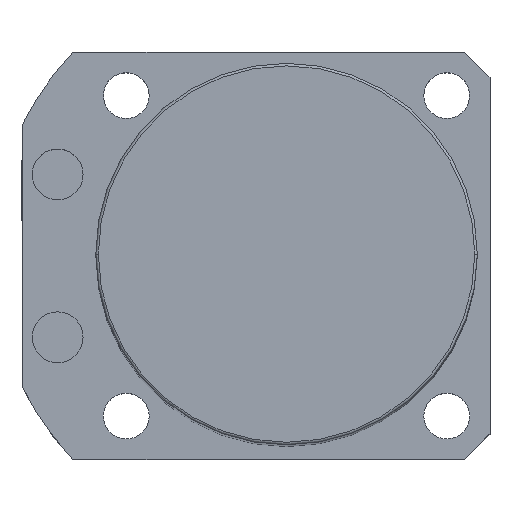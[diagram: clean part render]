
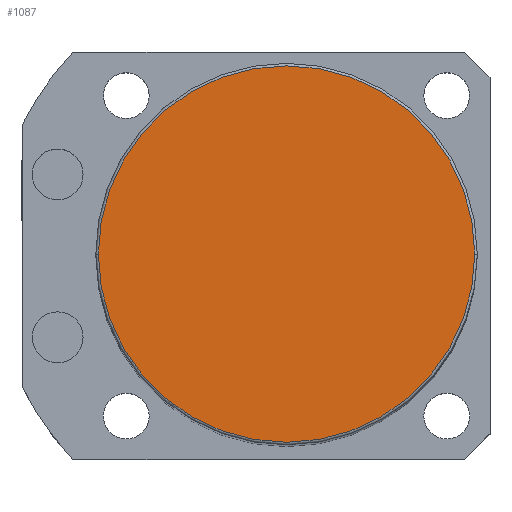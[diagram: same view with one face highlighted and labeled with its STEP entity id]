
A CAD part, top view. The second image highlights one B-rep face of the part: STEP entity #1087.
In plain terms, the highlighted planar face has unit normal (0, 0, 1).
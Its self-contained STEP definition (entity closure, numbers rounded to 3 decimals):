
#41 = EDGE_LOOP ( 'NONE', ( #1709, #2455 ) ) ;
#73 = AXIS2_PLACEMENT_3D ( 'NONE', #1378, #247, #1572 ) ;
#146 = CARTESIAN_POINT ( 'NONE',  ( 0., 0., 220.5 ) ) ;
#174 = VERTEX_POINT ( 'NONE', #1507 ) ;
#198 = AXIS2_PLACEMENT_3D ( 'NONE', #146, #1467, #1983 ) ;
#247 = DIRECTION ( 'NONE',  ( 0., 0., 1. ) ) ;
#462 = EDGE_CURVE ( 'NONE', #2234, #174, #1784, .T. ) ;
#546 = CIRCLE ( 'NONE', #1468, 37. ) ;
#796 = EDGE_CURVE ( 'NONE', #174, #2234, #546, .T. ) ;
#972 = FACE_OUTER_BOUND ( 'NONE', #41, .T. ) ;
#1077 = CARTESIAN_POINT ( 'NONE',  ( 0., 0., 220.5 ) ) ;
#1087 = ADVANCED_FACE ( 'NONE', ( #972 ), #2235, .T. ) ;
#1378 = CARTESIAN_POINT ( 'NONE',  ( 0., 0., 220.5 ) ) ;
#1467 = DIRECTION ( 'NONE',  ( 0., 0., 1. ) ) ;
#1468 = AXIS2_PLACEMENT_3D ( 'NONE', #1077, #1807, #1997 ) ;
#1507 = CARTESIAN_POINT ( 'NONE',  ( 37., 0., 220.5 ) ) ;
#1572 = DIRECTION ( 'NONE',  ( 1., 0., 0. ) ) ;
#1709 = ORIENTED_EDGE ( 'NONE', *, *, #796, .T. ) ;
#1784 = CIRCLE ( 'NONE', #73, 37. ) ;
#1807 = DIRECTION ( 'NONE',  ( 0., 0., 1. ) ) ;
#1983 = DIRECTION ( 'NONE',  ( 1., 0., 0. ) ) ;
#1997 = DIRECTION ( 'NONE',  ( 1., 0., 0. ) ) ;
#2016 = CARTESIAN_POINT ( 'NONE',  ( -37., 0., 220.5 ) ) ;
#2234 = VERTEX_POINT ( 'NONE', #2016 ) ;
#2235 = PLANE ( 'NONE',  #198 ) ;
#2455 = ORIENTED_EDGE ( 'NONE', *, *, #462, .T. ) ;
